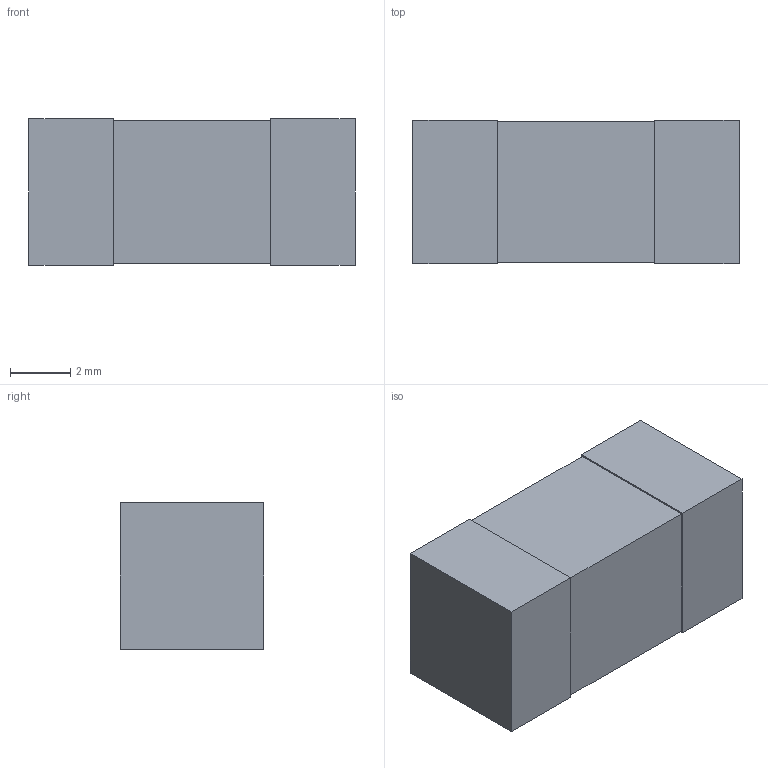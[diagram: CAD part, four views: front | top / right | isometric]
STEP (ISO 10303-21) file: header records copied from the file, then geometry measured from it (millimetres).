
FILE_DESCRIPTION(('FreeCAD Model'),'2;1');
FILE_NAME('/var/www/3D/0T/1194652.2.1.stp','2023-06-20T11:24:24',( 'Author'),(''),'Open CASCADE STEP processor 6.9','FreeCAD','Unknown' );
FILE_SCHEMA(('AUTOMOTIVE_DESIGN { 1 0 10303 214 1 1 1 1 }'));
Length unit declared in the file: millimetre
Products named in the file (4): ASSEMBLY; term1; term2; body
Assembly tree (3 placements, depth 2):
  ASSEMBLY
    term1
    term2
    body
Bounding box: 10.86 x 4.78 x 4.88 mm (x, y, z)
Volume: 248.5 mm3; surface area: 345.9 mm2
Topology: 3 solids, 3 shells, 18 faces, 36 edges, 24 vertices
Faces by surface type: plane 18
Entity records: 1020 total; most frequent: CARTESIAN_POINT 154, DIRECTION 152, LINE 108, VECTOR 108, ORIENTED_EDGE 72, PCURVE 72, DEFINITIONAL_REPRESENTATION 72, EDGE_CURVE 36
